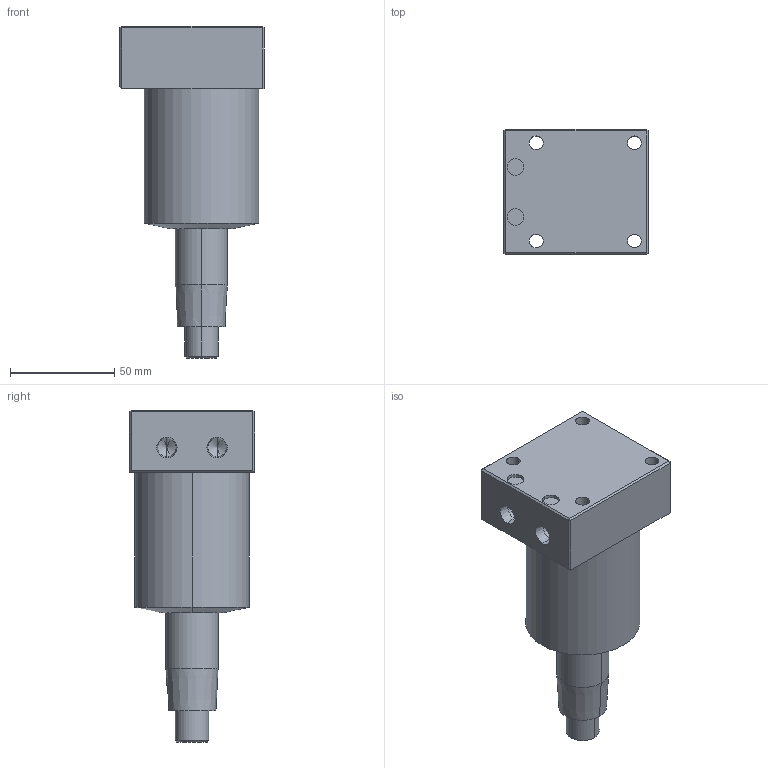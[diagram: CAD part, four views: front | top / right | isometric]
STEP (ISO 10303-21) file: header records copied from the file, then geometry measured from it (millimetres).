
FILE_DESCRIPTION (( 'STEP AP214' ), '1' );
FILE_NAME ('SB03-552-R-TAPER-BM.STEP', '2021-08-22T08:13:54', ( '' ), ( '' ), 'SwSTEP 2.0', 'SolidWorks 2019', '' );
FILE_SCHEMA (( 'AUTOMOTIVE_DESIGN' ));
Length unit declared in the file: millimetre
Products named in the file (3): BM-55 BODY; SB03-552-R-TAPER-BM; 55-TAPER-PISTON
Assembly tree (2 placements, depth 2):
  SB03-552-R-TAPER-BM
    BM-55 BODY
    55-TAPER-PISTON
Bounding box: 69 x 60 x 159 mm (x, y, z)
Volume: 281166.8 mm3; surface area: 44766.7 mm2
Topology: 2 solids, 2 shells, 68 faces, 149 edges, 88 vertices
Faces by surface type: plane 30, cylinder 24, cone 14
Entity records: 1952 total; most frequent: DIRECTION 349, CARTESIAN_POINT 315, ORIENTED_EDGE 290, EDGE_CURVE 145, AXIS2_PLACEMENT_3D 133, VERTEX_POINT 88, EDGE_LOOP 83, LINE 83
